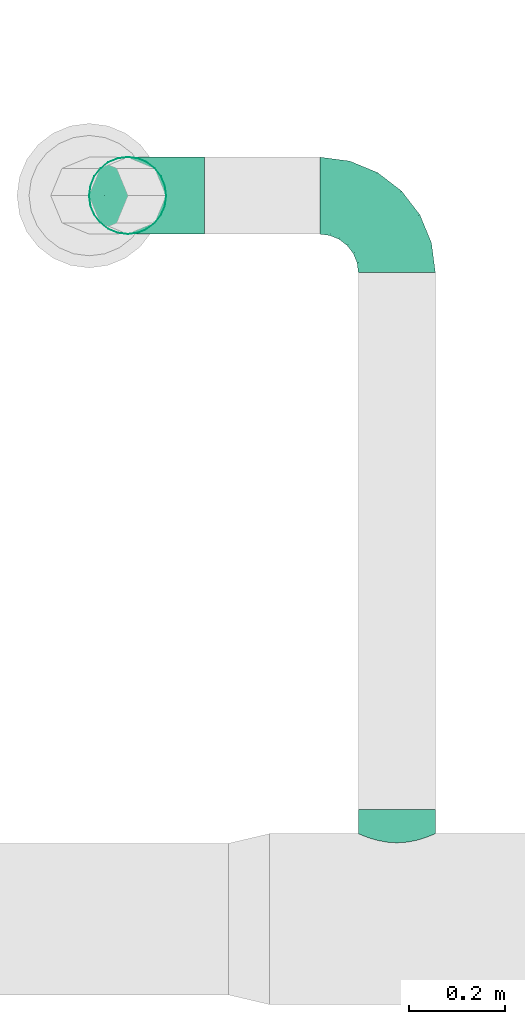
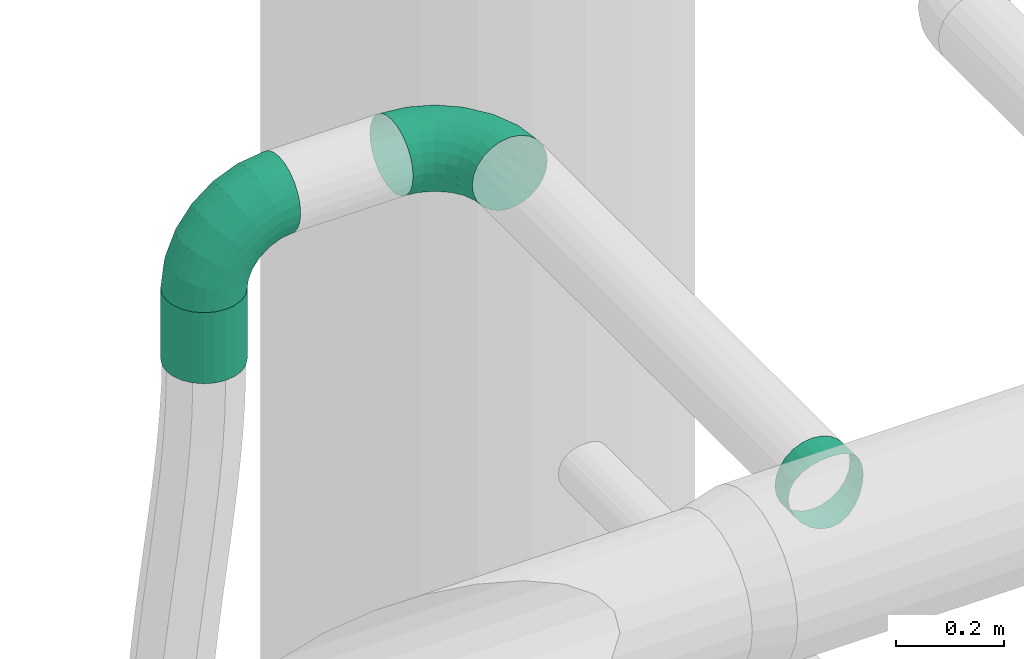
# One storey, part 144 of 374: 2 flow fittings, 2 flow segments.
"""IFC2X3 building model written with IfcOpenShell, lengths in metres."""

import ifcopenshell
import ifcopenshell.guid

model = None  # the IFC model being written
_history = None  # IfcOwnerHistory: only IFC2X3 demands one
_inside = {}  # id of a spatial element -> (the spatial element, [elements in it])
_under = {}  # id of a project, library or spatial element -> (it, [spatial elements below it])
_declared = {}  # id of a project -> (the project, [libraries it declares])
_typed = {}  # id of a type object -> (the type object, [elements of that type])
_made_of = {}  # id of a material, layer set ... -> (it, [elements and type objects made of it])


def new_model(schema):
    """Start an empty IFC model of exactly this schema.

    Asked for "IFC4X3", IfcOpenShell would pick the latest addendum, in which some entities
    have other attributes; the version numbers below select the first issue.
    IFC2X3 requires an IfcOwnerHistory on every rooted entity: one is made here for all.
    """
    global model, _history
    if schema == "IFC4X3":
        model = ifcopenshell.file(schema_version=(4, 3, 0, 0))
    else:
        model = ifcopenshell.file(schema=schema)
    _inside.clear()
    _under.clear()
    _declared.clear()
    _typed.clear()
    _made_of.clear()
    _history = None
    if model.schema == "IFC2X3":
        org = make("IfcOrganization", Name="unknown")
        user = make(
            "IfcPersonAndOrganization",
            ThePerson=make("IfcPerson", FamilyName="unknown"),
            TheOrganization=org,
        )
        app = make(
            "IfcApplication",
            ApplicationDeveloper=org,
            Version="unknown",
            ApplicationFullName="unknown",
            ApplicationIdentifier="unknown",
        )
        _history = make(
            "IfcOwnerHistory",
            OwningUser=user,
            OwningApplication=app,
            ChangeAction="ADDED",
            CreationDate=0,
        )
    return model


def make(cls, **values):
    """One entity of the class cls with the attributes given. An attribute that is None is left unset."""
    return model.create_entity(
        cls, **{name: value for name, value in values.items() if value is not None}
    )


def rooted(cls, **values):
    """An entity with a GlobalId (a new one), such as an element, a storey or a relation."""
    return make(cls, GlobalId=ifcopenshell.guid.new(), OwnerHistory=_history, **values)


def si_unit(unit_type, name, prefix=None):
    """IfcSIUnit, for example si_unit("LENGTHUNIT", "METRE", prefix="MILLI")."""
    return make("IfcSIUnit", UnitType=unit_type, Prefix=prefix, Name=name)


def assignment(units):
    """IfcUnitAssignment: the units of a project."""
    return None if units is None else make("IfcUnitAssignment", Units=units)


def point(xyz):
    """IfcCartesianPoint."""
    return None if xyz is None else make("IfcCartesianPoint", Coordinates=xyz)


def direction(xyz):
    """IfcDirection."""
    return None if xyz is None else make("IfcDirection", DirectionRatios=xyz)


def frame(location, z_axis=None, x_axis=None):
    """IfcAxis2Placement3D, a coordinate frame: its origin and axes. An axis left out is left unset."""
    return make(
        "IfcAxis2Placement3D",
        Location=point(location),
        Axis=direction(z_axis),
        RefDirection=direction(x_axis),
    )


def origin():
    """The frame at (0, 0, 0) with its axes left unset."""
    return frame((0.0, 0.0, 0.0))


def place(relative_to, where):
    """IfcLocalPlacement: puts the frame where relative to a parent placement (None: the world)."""
    return make(
        "IfcLocalPlacement", PlacementRelTo=relative_to, RelativePlacement=where
    )


def context(
    kind, dimensions, precision=None, world=None, true_north=None, identifier=None
):
    """IfcGeometricRepresentationContext, for example the 3D "Model" context."""
    return make(
        "IfcGeometricRepresentationContext",
        ContextIdentifier=identifier,
        ContextType=kind,
        CoordinateSpaceDimension=dimensions,
        Precision=precision,
        WorldCoordinateSystem=world,
        TrueNorth=true_north,
    )


def subcontext(parent, identifier, kind, view, scale=None):
    """IfcGeometricRepresentationSubContext, for example "Body" below "Model"."""
    return make(
        "IfcGeometricRepresentationSubContext",
        ContextIdentifier=identifier,
        ContextType=kind,
        ParentContext=parent,
        TargetScale=scale,
        TargetView=view,
    )


def project(units=None, contexts=None):
    """IfcProject with its units and contexts."""
    return rooted(
        "IfcProject",
        Name="project",
        RepresentationContexts=contexts,
        UnitsInContext=assignment(units),
    )


def spatial(cls, under=None, at=None, **own):
    """A site, building, storey or space (cls), placed at a placement, below another one or the project."""
    s = rooted(cls, ObjectPlacement=at, **own)
    if under is not None:
        _under.setdefault(under.id(), (under, []))[1].append(s)
    return s


def faces_of(points, faces, orient=None, outer=None):
    """IfcFace entities. A face is a list of loops; a loop is a list of indices into points, from 0.

    orient and outer hold one flag for each loop. By default every Orientation is true, the
    first loop of a face is its IfcFaceOuterBound and the others are IfcFaceBound.
    """
    made = []
    for i, loops in enumerate(faces):
        bounds = []
        for j, loop in enumerate(loops):
            is_outer = j == 0 if outer is None else outer[i][j]
            bounds.append(
                make(
                    "IfcFaceOuterBound" if is_outer else "IfcFaceBound",
                    Bound=make("IfcPolyLoop", Polygon=[points[k] for k in loop]),
                    Orientation=True if orient is None else orient[i][j],
                )
            )
        made.append(make("IfcFace", Bounds=bounds))
    return made


def open_shell(faces, orient=None, outer=None):
    """The faces of one IfcOpenShell. surface_model builds it on its shared points."""
    return ("IfcOpenShell", faces, orient, outer)


def surface_model(cls, points, shells):
    """IfcFaceBasedSurfaceModel or IfcShellBasedSurfaceModel (cls): surfaces that need not close."""
    shared = [point(p) for p in points]
    made = [make(c, CfsFaces=faces_of(shared, fs, o, b)) for c, fs, o, b in shells]
    if cls == "IfcFaceBasedSurfaceModel":
        return make(cls, FbsmFaces=made)
    return make(cls, SbsmBoundary=made)


def shape(context_of_items, identifier, shape_type, items):
    """IfcShapeRepresentation: the items that make up one representation, for example the "Body"."""
    return make(
        "IfcShapeRepresentation",
        ContextOfItems=context_of_items,
        RepresentationIdentifier=identifier,
        RepresentationType=shape_type,
        Items=items,
    )


def source(mapping_origin, context_of_items, identifier, shape_type, items):
    """IfcRepresentationMap: a shape defined once, which mapped items show again and again."""
    return make(
        "IfcRepresentationMap",
        MappingOrigin=mapping_origin,
        MappedRepresentation=shape(context_of_items, identifier, shape_type, items),
    )


def transform(
    local_origin,
    x_axis=None,
    y_axis=None,
    z_axis=None,
    scale=None,
    scale2=None,
    scale3=None,
    uniform=True,
):
    """IfcCartesianTransformationOperator3D, or its non-uniform kind. x_axis, y_axis, z_axis: its Axis1, 2, 3."""
    if uniform:
        return make(
            "IfcCartesianTransformationOperator3D",
            Axis1=direction(x_axis),
            Axis2=direction(y_axis),
            LocalOrigin=point(local_origin),
            Scale=scale,
            Axis3=direction(z_axis),
        )
    return make(
        "IfcCartesianTransformationOperator3DnonUniform",
        Axis1=direction(x_axis),
        Axis2=direction(y_axis),
        LocalOrigin=point(local_origin),
        Scale=scale,
        Axis3=direction(z_axis),
        Scale2=scale2,
        Scale3=scale3,
    )


def mapped(mapping_source, mapping_target):
    """IfcMappedItem: shows the shape of a source again, moved by a transform."""
    return make(
        "IfcMappedItem", MappingSource=mapping_source, MappingTarget=mapping_target
    )


def made_of(thing, what):
    """Note that an element or type object is made of a material, layer set ...; save() writes the relation."""
    if what is not None:
        _made_of.setdefault(what.id(), (what, []))[1].append(thing)
    return thing


def element(
    cls,
    number,
    at=None,
    inside=None,
    cuts=None,
    type_object=None,
    material=None,
    context=None,
    identifier="Body",
    shape_type=None,
    held_by="IfcProductDefinitionShape",
    body=None,
    shapes=None,
    **own,
):
    """One element of the class cls, such as IfcWall. Its Tag is "e" and its number.

    at: its placement. inside: the storey or other place that contains it. cuts: it is an
    opening in that element (IfcRelVoidsElement). A single representation is given by context,
    identifier, shape_type and body (its items); several are given by shapes. held_by: the class
    of the entity that holds the representations. save() writes the other relations.
    """
    e = rooted(cls, Tag="e%d" % number, ObjectPlacement=at, **own)
    if body is not None:
        shapes = [shape(context, identifier, shape_type, body)]
    if shapes is not None:
        e.Representation = make(held_by, Representations=shapes)
    if inside is not None:
        _inside.setdefault(inside.id(), (inside, []))[1].append(e)
    if cuts is not None:
        rooted(
            "IfcRelVoidsElement", RelatingBuildingElement=cuts, RelatedOpeningElement=e
        )
    if type_object is not None:
        _typed.setdefault(type_object.id(), (type_object, []))[1].append(e)
    return made_of(e, material)


def aggregate(whole, parts):
    """IfcRelAggregates: a whole, such as a stair, and the parts it consists of."""
    return rooted("IfcRelAggregates", RelatingObject=whole, RelatedObjects=parts)


def save(model, path):
    """Write the relations noted so far, then the file.

    IfcRelAggregates (storeys below a building ...), IfcRelContainedInSpatialStructure (elements
    in a storey), IfcRelDefinesByType, IfcRelAssociatesMaterial and IfcRelDeclares: one each for
    every whole, place, type object, material and project.
    """
    for whole, parts in _under.values():
        aggregate(whole, parts)
    for where, things in _inside.values():
        rooted(
            "IfcRelContainedInSpatialStructure",
            RelatedElements=things,
            RelatingStructure=where,
        )
    for kind, things in _typed.values():
        rooted("IfcRelDefinesByType", RelatedObjects=things, RelatingType=kind)
    for what, things in _made_of.values():
        rooted("IfcRelAssociatesMaterial", RelatedObjects=things, RelatingMaterial=what)
    for by, libraries in _declared.values():
        rooted("IfcRelDeclares", RelatingContext=by, RelatedDefinitions=libraries)
    model.write(path)


model = new_model("IFC2X3")

# Units and contexts
model_context = context("Model", 3, precision=1e-05, world=origin(), true_north=direction((-0.4480736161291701, 0.8939966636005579)))
body_context = subcontext(model_context, "Body", "Model", "MODEL_VIEW")
ifc_project = project(units=[si_unit("LENGTHUNIT", "METRE"), si_unit("AREAUNIT", "SQUARE_METRE"), si_unit("VOLUMEUNIT", "CUBIC_METRE"), si_unit("PLANEANGLEUNIT", "RADIAN"), si_unit("THERMODYNAMICTEMPERATUREUNIT", "KELVIN"), si_unit("MASSUNIT", "GRAM", prefix="KILO"), si_unit("TIMEUNIT", "SECOND")], contexts=[model_context])

# Site, building, storey
site_placement = place(None, origin())
site = spatial("IfcSite", under=ifc_project, at=site_placement, Name="Site 1", CompositionType="ELEMENT")
building_placement = place(site_placement, origin())
building = spatial("IfcBuilding", under=site, at=building_placement, Name="Undefined", CompositionType="ELEMENT")
storey_placement = place(building_placement, origin())
storey = spatial("IfcBuildingStorey", under=building, at=storey_placement, Name="Rez de chauss\x8ee", CompositionType="ELEMENT", Elevation=0.0)

# Flow fittings
shared_shape_1 = source(origin(), body_context, "Body", "SurfaceModel", [
    surface_model("IfcFaceBasedSurfaceModel", [(0.06265257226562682, -8.8817842e-16, 0.0), (0.062296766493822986, 0.02088115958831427, -7.105427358e-15), (0.0003558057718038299, 0.020881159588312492, 7.105427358e-15), (0.0, 0.0, 0.0), (-0.059474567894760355, 0.022956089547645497, -0.015896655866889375), (-0.06051773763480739, 0.002098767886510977, -0.01607928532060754), (-0.11311701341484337, 0.02696454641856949, -0.04660663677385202), (-0.11477645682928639, 0.006153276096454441, -0.04714207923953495), (-0.15691588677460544, 0.0326333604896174, -0.09003710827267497), (-0.15907851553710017, 0.01188721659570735, -0.09107150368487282), (-0.18788636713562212, 0.03957621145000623, -0.14322835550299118), (-0.1904048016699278, 0.01890983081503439, -0.14487384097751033), (-0.2039178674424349, 0.04731995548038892, -0.20255548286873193), (-0.20662048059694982, 0.026742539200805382, -0.20488255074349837), (0.061253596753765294, 0.04103889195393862, -0.0053597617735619), (0.0013989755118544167, 0.04103889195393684, -0.005359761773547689), (-0.05641614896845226, 0.04304393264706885, -0.02072097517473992), (-0.10825177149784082, 0.04691737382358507, -0.050396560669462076), (-0.15057538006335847, 0.05239524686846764, -0.09236417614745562), (-0.18050269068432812, 0.05910424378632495, -0.14376379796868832), (-0.19599420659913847, 0.06658715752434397, -0.20109262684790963), (0.05959415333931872, 0.05909948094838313, -0.01571402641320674), (0.003058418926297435, 0.05909948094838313, -0.01571402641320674), (-0.05155090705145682, 0.06099334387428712, -0.030223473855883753), (-0.10051228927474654, 0.06465200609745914, -0.058253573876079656), (-0.1404890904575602, 0.0698261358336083, -0.09789412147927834), (-0.16875695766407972, 0.0761631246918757, -0.14644367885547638), (-0.18338948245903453, 0.08323111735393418, -0.2005936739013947), (0.057431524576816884, 0.07383212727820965, -0.030357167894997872), (0.005221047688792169, 0.07383212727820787, -0.03035716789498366), (-0.0452104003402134, 0.07558110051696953, -0.04375657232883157), (-0.09042599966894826, 0.07895985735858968, -0.06964223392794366), (-0.12734438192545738, 0.08373814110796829, -0.10625008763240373), (-0.15344962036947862, 0.08959031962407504, -0.15108536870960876), (-0.16696268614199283, 0.0961175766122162, -0.20109262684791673), (0.054913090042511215, 0.0842328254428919, -0.048291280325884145), (0.007739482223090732, 0.08423282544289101, -0.04829128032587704), (-0.037826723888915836, 0.08581307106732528, -0.06039801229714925), (-0.07868026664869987, 0.08886587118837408, -0.08378642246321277), (-0.11203704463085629, 0.09318318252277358, -0.11686262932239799), (-0.13562384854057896, 0.09847078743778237, -0.1573725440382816), (-0.14783327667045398, 0.10436834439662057, -0.20255548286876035), (0.05221047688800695, 0.0895927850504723, -0.06829418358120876), (0.010442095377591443, 0.08959278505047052, -0.06829418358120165), (-0.029903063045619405, 0.09099196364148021, -0.07901370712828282), (-0.06607554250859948, 0.09369496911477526, -0.0997222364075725), (-0.0956102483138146, 0.0975175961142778, -0.12900851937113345), (-0.11649443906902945, 0.10219933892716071, -0.16487674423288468), (-0.12730489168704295, 0.1074211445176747, -0.2048825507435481), (0.04950786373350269, 0.08954673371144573, -0.08900271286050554), (0.013144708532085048, 0.08954673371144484, -0.08900271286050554), (-0.02197940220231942, 0.09076484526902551, -0.09833502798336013), (-0.05347081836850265, 0.09311805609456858, -0.11636367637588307), (-0.0791834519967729, 0.09644599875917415, -0.14186003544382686), (-0.09736502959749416, 0.10052187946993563, -0.17308657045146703), (-0.10677650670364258, 0.1050679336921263, -0.20791524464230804), (0.04698942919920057, 0.08409780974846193, -0.10900561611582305), (0.015663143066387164, 0.08409780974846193, -0.10900561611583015), (-0.014595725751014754, 0.08514719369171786, -0.11704525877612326), (-0.0417250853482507, 0.0871744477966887, -0.13257665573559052), (-0.06387611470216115, 0.09004141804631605, -0.15454136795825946), (-0.07953925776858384, 0.09355272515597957, -0.1814425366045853), (-0.08764709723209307, 0.09746907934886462, -0.21144689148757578), (0.04482680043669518, 0.0736173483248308, -0.12693972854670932), (0.017825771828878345, 0.0736173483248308, -0.12693972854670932), (-0.008255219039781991, 0.07452184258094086, -0.13386932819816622), (-0.03163879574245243, 0.0762691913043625, -0.14725628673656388), (-0.050731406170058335, 0.07874031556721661, -0.1661883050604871), (-0.06423192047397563, 0.08176681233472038, -0.18937519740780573), (-0.07122030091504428, 0.08514243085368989, -0.21523681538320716), (0.04316735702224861, 0.058819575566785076, -0.14158287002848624), (0.019485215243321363, 0.058819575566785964, -0.14158287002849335), (-0.0033899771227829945, 0.05961289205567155, -0.14766070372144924), (-0.02389931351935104, 0.06114546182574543, -0.15940217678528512), (-0.04064511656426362, 0.06331284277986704, -0.17600712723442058), (-0.052486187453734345, 0.06596733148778, -0.19634395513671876), (-0.05861557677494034, 0.06892802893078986, -0.2190267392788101), (0.04212418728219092, 0.040712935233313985, -0.15193713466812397), (0.020528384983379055, 0.040712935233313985, -0.15193713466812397), (-0.0003315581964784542, 0.041436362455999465, -0.15747952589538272), (-0.019034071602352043, 0.04283391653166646, -0.16818660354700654), (-0.03430460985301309, 0.04481035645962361, -0.1833286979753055), (-0.04510251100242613, 0.047230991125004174, -0.20187390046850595), (-0.05069191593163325, 0.04993085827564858, -0.22255838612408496), (0.04176838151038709, 0.02053136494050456, -0.15729689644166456), (0.020884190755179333, 0.02053136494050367, -0.15729689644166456), (0.0007116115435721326, 0.021230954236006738, -0.16265665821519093), (-0.017374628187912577, 0.022582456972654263, -0.17301092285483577), (-0.03214198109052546, 0.024493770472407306, -0.1876540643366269), (-0.042584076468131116, 0.026834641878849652, -0.20558817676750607), (-0.04798930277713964, 0.02944554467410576, -0.22559108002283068), (0.04212418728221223, -0.000349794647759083, -0.15729689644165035), (0.020528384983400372, -0.000349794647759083, -0.15729689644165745), (-0.0003315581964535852, 0.00037363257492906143, -0.1628392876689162), (-0.019034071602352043, 0.0017711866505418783, -0.17354636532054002), (-0.03430460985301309, 0.0037476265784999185, -0.18868845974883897), (-0.04510251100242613, 0.00616826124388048, -0.20723366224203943), (-0.05069191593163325, 0.008868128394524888, -0.22791814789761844), (0.04316735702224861, -0.020507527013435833, -0.15193713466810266), (0.019485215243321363, -0.020507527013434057, -0.15193713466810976), (-0.0033899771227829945, -0.019714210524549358, -0.15801496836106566), (-0.02389931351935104, -0.01818164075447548, -0.16975644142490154), (-0.04064511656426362, -0.01601425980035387, -0.186361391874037), (-0.052486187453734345, -0.013359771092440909, -0.20669821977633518), (-0.05861557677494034, -0.010399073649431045, -0.22938100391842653), (0.04482680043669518, -0.03856811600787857, -0.1415828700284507), (0.017825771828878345, -0.03856811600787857, -0.1415828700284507), (-0.008255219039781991, -0.03766362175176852, -0.1485124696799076), (-0.03163879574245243, -0.03591627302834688, -0.16189942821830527), (-0.050731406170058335, -0.03344514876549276, -0.1808314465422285), (-0.06423192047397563, -0.030418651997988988, -0.20401833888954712), (-0.07122030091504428, -0.027043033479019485, -0.22987995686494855), (0.04698942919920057, -0.05330076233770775, -0.12693972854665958), (0.015663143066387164, -0.05330076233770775, -0.12693972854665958), (-0.014595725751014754, -0.05225137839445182, -0.1349793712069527), (-0.0417250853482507, -0.05022412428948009, -0.15051076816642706), (-0.06387611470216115, -0.047357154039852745, -0.172475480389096), (-0.07953925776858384, -0.043845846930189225, -0.19937664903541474), (-0.08764709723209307, -0.03992949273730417, -0.2293810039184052), (0.04950786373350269, -0.06370146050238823, -0.10900561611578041), (0.013144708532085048, -0.06370146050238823, -0.10900561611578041), (-0.02197940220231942, -0.06248334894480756, -0.11833793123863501), (-0.05347081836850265, -0.06013013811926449, -0.13636657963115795), (-0.0791834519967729, -0.05680219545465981, -0.16186293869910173), (-0.09736502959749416, -0.05272631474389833, -0.1930894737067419), (-0.10677650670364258, -0.04818026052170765, -0.2279181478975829), (0.05221047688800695, -0.06906142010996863, -0.08900271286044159), (0.010442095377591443, -0.06906142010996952, -0.08900271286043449), (-0.029903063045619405, -0.06766224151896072, -0.09972223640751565), (-0.06607554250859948, -0.06495923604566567, -0.12043076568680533), (-0.0956102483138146, -0.06113660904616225, -0.14971704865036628), (-0.11649443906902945, -0.05645486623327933, -0.1855852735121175), (-0.12730489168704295, -0.05123306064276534, -0.22559108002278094), (0.054913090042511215, -0.06901536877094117, -0.06829418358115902), (0.007739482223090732, -0.06901536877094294, -0.06829418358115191), (-0.037826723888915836, -0.06743512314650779, -0.08040091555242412), (-0.07868026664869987, -0.06438232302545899, -0.10378932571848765), (-0.11203704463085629, -0.06006501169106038, -0.13686553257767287), (-0.13562384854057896, -0.0547774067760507, -0.17737544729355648), (-0.14783327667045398, -0.04887984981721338, -0.22255838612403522), (0.057431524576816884, -0.06356644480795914, -0.0482912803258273), (0.005221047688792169, -0.06356644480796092, -0.04829128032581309), (-0.0452104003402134, -0.061817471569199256, -0.0616906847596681), (-0.09042599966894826, -0.05843871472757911, -0.0875763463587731), (-0.12734438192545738, -0.05366043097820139, -0.12418420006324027), (-0.15344962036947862, -0.04780825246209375, -0.1690194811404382), (-0.16696268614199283, -0.041280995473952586, -0.21902673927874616), (0.05959415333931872, -0.05308598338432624, -0.030357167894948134), (0.003058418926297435, -0.05308598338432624, -0.030357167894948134), (-0.05155090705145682, -0.05119212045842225, -0.04486661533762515), (-0.10051228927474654, -0.04753345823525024, -0.07289671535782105), (-0.1404890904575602, -0.04235932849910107, -0.11253726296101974), (-0.16875695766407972, -0.03602233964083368, -0.16108682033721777), (-0.18338948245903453, -0.02895434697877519, -0.2152368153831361), (0.061253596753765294, -0.03828821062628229, -0.015714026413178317), (0.0013989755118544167, -0.03828821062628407, -0.015714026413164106), (-0.05641614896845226, -0.03628316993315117, -0.031075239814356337), (-0.10825177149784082, -0.03240972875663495, -0.06075082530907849), (-0.15057538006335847, -0.026931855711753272, -0.10271844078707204), (-0.18050269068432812, -0.02022285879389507, -0.15411806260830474), (-0.19599420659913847, -0.012739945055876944, -0.21144689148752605), (0.062296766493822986, -0.020181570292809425, -0.005359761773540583), (0.0003558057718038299, -0.020181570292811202, -0.0053597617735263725), (-0.059474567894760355, -0.018106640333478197, -0.021256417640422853), (-0.11311701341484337, -0.014098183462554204, -0.051966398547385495), (-0.15691588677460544, -0.00842936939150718, -0.09539687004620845), (-0.18788636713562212, -0.0014865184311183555, -0.14858811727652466), (-0.2039178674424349, 0.006257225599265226, -0.2079152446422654)], [open_shell([[[0, 1, 2, 3]], [[3, 2, 4, 5]], [[5, 4, 6, 7]], [[7, 6, 8, 9]], [[9, 8, 10, 11]], [[11, 10, 12, 13]], [[1, 14, 15, 2]], [[2, 15, 16, 4]], [[4, 16, 17, 6]], [[6, 17, 18, 8]], [[8, 18, 19, 10]], [[10, 19, 20, 12]], [[14, 21, 22, 15]], [[15, 22, 23, 16]], [[16, 23, 24, 17]], [[17, 24, 25, 18]], [[18, 25, 26, 19]], [[19, 26, 27, 20]], [[21, 28, 29, 22]], [[22, 29, 30, 23]], [[23, 30, 31, 24]], [[24, 31, 32, 25]], [[25, 32, 33, 26]], [[26, 33, 34, 27]], [[28, 35, 36, 29]], [[29, 36, 37, 30]], [[30, 37, 38, 31]], [[31, 38, 39, 32]], [[32, 39, 40, 33]], [[33, 40, 41, 34]], [[35, 42, 43, 36]], [[36, 43, 44, 37]], [[37, 44, 45, 38]], [[38, 45, 46, 39]], [[39, 46, 47, 40]], [[40, 47, 48, 41]], [[42, 49, 50, 43]], [[43, 50, 51, 44]], [[44, 51, 52, 45]], [[45, 52, 53, 46]], [[46, 53, 54, 47]], [[47, 54, 55, 48]], [[49, 56, 57, 50]], [[50, 57, 58, 51]], [[51, 58, 59, 52]], [[52, 59, 60, 53]], [[53, 60, 61, 54]], [[54, 61, 62, 55]], [[56, 63, 64, 57]], [[57, 64, 65, 58]], [[58, 65, 66, 59]], [[59, 66, 67, 60]], [[60, 67, 68, 61]], [[61, 68, 69, 62]], [[63, 70, 71, 64]], [[64, 71, 72, 65]], [[65, 72, 73, 66]], [[66, 73, 74, 67]], [[67, 74, 75, 68]], [[68, 75, 76, 69]], [[70, 77, 78, 71]], [[71, 78, 79, 72]], [[72, 79, 80, 73]], [[73, 80, 81, 74]], [[74, 81, 82, 75]], [[75, 82, 83, 76]], [[77, 84, 85, 78]], [[78, 85, 86, 79]], [[79, 86, 87, 80]], [[80, 87, 88, 81]], [[81, 88, 89, 82]], [[82, 89, 90, 83]], [[84, 91, 92, 85]], [[85, 92, 93, 86]], [[86, 93, 94, 87]], [[87, 94, 95, 88]], [[88, 95, 96, 89]], [[89, 96, 97, 90]], [[91, 98, 99, 92]], [[92, 99, 100, 93]], [[93, 100, 101, 94]], [[94, 101, 102, 95]], [[95, 102, 103, 96]], [[96, 103, 104, 97]], [[98, 105, 106, 99]], [[99, 106, 107, 100]], [[100, 107, 108, 101]], [[101, 108, 109, 102]], [[102, 109, 110, 103]], [[103, 110, 111, 104]], [[105, 112, 113, 106]], [[106, 113, 114, 107]], [[107, 114, 115, 108]], [[108, 115, 116, 109]], [[109, 116, 117, 110]], [[110, 117, 118, 111]], [[112, 119, 120, 113]], [[113, 120, 121, 114]], [[114, 121, 122, 115]], [[115, 122, 123, 116]], [[116, 123, 124, 117]], [[117, 124, 125, 118]], [[119, 126, 127, 120]], [[120, 127, 128, 121]], [[121, 128, 129, 122]], [[122, 129, 130, 123]], [[123, 130, 131, 124]], [[124, 131, 132, 125]], [[126, 133, 134, 127]], [[127, 134, 135, 128]], [[128, 135, 136, 129]], [[129, 136, 137, 130]], [[130, 137, 138, 131]], [[131, 138, 139, 132]], [[133, 140, 141, 134]], [[134, 141, 142, 135]], [[135, 142, 143, 136]], [[136, 143, 144, 137]], [[137, 144, 145, 138]], [[138, 145, 146, 139]], [[140, 147, 148, 141]], [[141, 148, 149, 142]], [[142, 149, 150, 143]], [[143, 150, 151, 144]], [[144, 151, 152, 145]], [[145, 152, 153, 146]], [[147, 154, 155, 148]], [[148, 155, 156, 149]], [[149, 156, 157, 150]], [[150, 157, 158, 151]], [[151, 158, 159, 152]], [[152, 159, 160, 153]], [[154, 161, 162, 155]], [[155, 162, 163, 156]], [[156, 163, 164, 157]], [[157, 164, 165, 158]], [[158, 165, 166, 159]], [[159, 166, 167, 160]], [[161, 0, 3, 162]], [[162, 3, 5, 163]], [[163, 5, 7, 164]], [[164, 7, 9, 165]], [[165, 9, 11, 166]], [[166, 11, 13, 167]]])]),
])
flow_fitting_1_placement = place(storey_placement, origin())
element("IfcFlowFitting", 1, at=flow_fitting_1_placement, inside=storey, Name="Coude", ObjectType="Coude", context=body_context, shape_type="MappedRepresentation", body=[
    mapped(shared_shape_1, transform((31.8067284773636, 21.932112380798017, 3.8000000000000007), x_axis=(0.13052619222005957, -0.9914448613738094, 0.0), y_axis=(-0.12832103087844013, -0.016893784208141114, -0.9915887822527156), z_axis=(0.983105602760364, 0.12942830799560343, -0.1294283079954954))),
])
flow_fitting_2_placement = place(storey_placement, origin())
element("IfcFlowFitting", 2, at=flow_fitting_2_placement, inside=storey, Name="Coude", ObjectType="Coude", context=body_context, shape_type="MappedRepresentation", body=[
    mapped(shared_shape_1, transform((31.103915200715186, 22.029995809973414, 3.7021165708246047), x_axis=(-0.13052619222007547, 0.0, -0.9914448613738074), y_axis=(0.12832103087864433, -0.9915887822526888, -0.016893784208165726), z_axis=(-0.9831056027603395, -0.12942830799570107, 0.1294283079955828))),
])

# Flow segments
shared_shape_2 = source(origin(), body_context, "Body", "SurfaceModel", [
    surface_model("IfcFaceBasedSurfaceModel", [(0.0, 0.020884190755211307, 0.0), (0.0, 0.0, 0.0), (0.16000000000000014, 0.0, -4.4408921e-16), (0.16000000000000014, 0.0208841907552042, -4.4408921e-16), (0.0, -0.020172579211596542, -0.005405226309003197), (0.16000000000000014, -0.020172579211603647, -0.005405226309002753), (0.0, -0.03825881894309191, -0.015847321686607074), (0.16000000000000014, -0.03825881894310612, -0.015847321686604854), (0.0, -0.05302617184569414, -0.0306146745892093), (0.16000000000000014, -0.05302617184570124, -0.03061467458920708), (0.0, -0.06346826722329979, -0.04870091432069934), (0.16000000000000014, -0.0634682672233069, -0.04870091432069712), (0.0, -0.06887349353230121, -0.06887349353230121), (0.16000000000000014, -0.06887349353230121, -0.06887349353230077), (0.0, -0.06887349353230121, -0.08975768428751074), (0.16000000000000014, -0.06887349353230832, -0.08975768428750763), (0.0, -0.06346826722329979, -0.10993026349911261), (0.16000000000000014, -0.0634682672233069, -0.10993026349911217), (0.0, -0.05302617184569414, -0.12801650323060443), (0.16000000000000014, -0.05302617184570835, -0.1280165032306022), (0.0, -0.038258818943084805, -0.14278385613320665), (0.16000000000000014, -0.03825881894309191, -0.14278385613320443), (0.0, -0.020172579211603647, -0.15322595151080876), (0.16000000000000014, -0.020172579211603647, -0.1532259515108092), (0.0, 7.105427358e-15, -0.15863117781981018), (0.16000000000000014, -7.105427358e-15, -0.15863117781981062), (0.0, 0.020884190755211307, -0.15863117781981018), (0.16000000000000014, 0.0208841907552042, -0.15863117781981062), (0.0, 0.04105676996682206, -0.15322595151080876), (0.16000000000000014, 0.04105676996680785, -0.1532259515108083), (0.0, 0.05914300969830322, -0.1427838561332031), (0.16000000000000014, 0.05914300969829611, -0.14278385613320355), (0.0, 0.07391036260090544, -0.12801650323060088), (0.16000000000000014, 0.07391036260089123, -0.1280165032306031), (0.0, 0.0843524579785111, -0.10993026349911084), (0.16000000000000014, 0.08435245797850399, -0.10993026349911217), (0.0, 0.08975768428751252, -0.08975768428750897), (0.16000000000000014, 0.08975768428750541, -0.08975768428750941), (0.0, 0.08975768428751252, -0.06887349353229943), (0.16000000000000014, 0.08975768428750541, -0.06887349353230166), (0.0, 0.0843524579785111, -0.048700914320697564), (0.16000000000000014, 0.08435245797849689, -0.04870091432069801), (0.0, 0.07391036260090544, -0.030614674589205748), (0.16000000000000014, 0.07391036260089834, -0.03061467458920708), (0.0, 0.05914300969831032, -0.015847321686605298), (0.16000000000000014, 0.05914300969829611, -0.01584732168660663), (0.0, 0.04105676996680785, -0.005405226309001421), (0.16000000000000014, 0.04105676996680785, -0.005405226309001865)], [open_shell([[[0, 1, 2, 3]], [[1, 4, 5, 2]], [[4, 6, 7, 5]], [[6, 8, 9, 7]], [[8, 10, 11, 9]], [[10, 12, 13, 11]], [[12, 14, 15, 13]], [[14, 16, 17, 15]], [[16, 18, 19, 17]], [[18, 20, 21, 19]], [[20, 22, 23, 21]], [[22, 24, 25, 23]], [[24, 26, 27, 25]], [[26, 28, 29, 27]], [[28, 30, 31, 29]], [[30, 32, 33, 31]], [[32, 34, 35, 33]], [[34, 36, 37, 35]], [[36, 38, 39, 37]], [[38, 40, 41, 39]], [[40, 42, 43, 41]], [[42, 44, 45, 43]], [[44, 46, 47, 45]], [[46, 0, 3, 47]]])]),
])
flow_segment_1_placement = place(storey_placement, origin())
element("IfcFlowSegment", 3, at=flow_segment_1_placement, inside=storey, Name="Tube", ObjectType="Tube", context=body_context, shape_type="MappedRepresentation", body=[
    mapped(shared_shape_2, transform((31.253011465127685, 22.050701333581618, 3.4800000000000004), x_axis=(0.0, 0.0, 1.0), y_axis=(0.13052619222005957, -0.9914448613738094, 0.0), z_axis=(0.9914448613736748, 0.13052619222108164, 0.0))),
])
shared_shape_3 = source(origin(), body_context, "Body", "SurfaceModel", [
    surface_model("IfcFaceBasedSurfaceModel", [(0.0012117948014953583, 0.0208841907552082, 0.0), (0.0, 0.0, 0.0), (0.05121179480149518, 4.4408921e-16, 7.105427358e-15), (0.05121179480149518, 0.0208841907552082, 0.0), (-0.0033539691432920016, -0.02017257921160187, -0.005405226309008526), (0.05121179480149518, -0.02017257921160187, -0.005405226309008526), (-0.008043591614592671, -0.03825881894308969, -0.01584732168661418), (0.05121179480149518, -0.03825881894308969, -0.01584732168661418), (-0.012867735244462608, -0.05302617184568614, -0.03061467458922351), (0.05121179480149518, -0.05302617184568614, -0.03061467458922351), (-0.01649155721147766, -0.06346826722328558, -0.04870091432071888), (0.05121179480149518, -0.06346826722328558, -0.04870091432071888), (-0.017838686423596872, -0.06887349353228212, -0.06887349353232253), (0.05121179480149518, -0.06887349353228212, -0.06887349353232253), (-0.01649155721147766, -0.06887349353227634, -0.08975768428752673), (0.05121179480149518, -0.06887349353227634, -0.08975768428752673), (-0.012867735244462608, -0.06346826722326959, -0.10993026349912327), (0.05121179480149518, -0.06346826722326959, -0.10993026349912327), (-0.008043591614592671, -0.05302617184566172, -0.12801650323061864), (0.05121179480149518, -0.05302617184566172, -0.12801650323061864), (-0.0033539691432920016, -0.03825881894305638, -0.14278385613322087), (0.05121179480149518, -0.03825881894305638, -0.14278385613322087), (0.0, -0.020172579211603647, -0.15322595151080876), (0.05121179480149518, -0.020172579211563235, -0.1532259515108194), (0.0012117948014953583, 4.2188474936e-14, -0.15863117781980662), (0.05121179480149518, 4.2188474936e-14, -0.15863117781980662), (0.0, 0.020884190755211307, -0.15863117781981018), (0.05121179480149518, 0.020884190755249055, -0.15863117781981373), (-0.0033539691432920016, 0.04105676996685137, -0.1532259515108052), (0.05121179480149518, 0.04105676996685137, -0.1532259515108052), (-0.008043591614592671, 0.059143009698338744, -0.14278385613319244), (0.05121179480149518, 0.059143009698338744, -0.14278385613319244), (-0.012867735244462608, 0.07391036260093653, -0.128016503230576), (0.05121179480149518, 0.07391036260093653, -0.128016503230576), (-0.01649155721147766, 0.08435245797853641, -0.10993026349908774), (0.05121179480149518, 0.08435245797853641, -0.10993026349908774), (-0.017838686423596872, 0.0897576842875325, -0.0897576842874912), (0.05121179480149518, 0.0897576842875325, -0.0897576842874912), (-0.01649155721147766, 0.08975768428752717, -0.0688734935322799), (0.05121179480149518, 0.08975768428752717, -0.0688734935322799), (-0.012867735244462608, 0.08435245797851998, -0.04870091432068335), (0.05121179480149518, 0.08435245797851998, -0.04870091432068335), (-0.008043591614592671, 0.07391036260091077, -0.030614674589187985), (0.05121179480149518, 0.07391036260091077, -0.030614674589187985), (-0.0033539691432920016, 0.05914300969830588, -0.015847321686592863), (0.05121179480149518, 0.05914300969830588, -0.015847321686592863), (0.0, 0.04105676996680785, -0.005405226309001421), (0.05121179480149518, 0.04105676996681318, -0.00540522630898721)], [open_shell([[[0, 1, 2, 3]], [[1, 4, 5, 2]], [[4, 6, 7, 5]], [[6, 8, 9, 7]], [[8, 10, 11, 9]], [[10, 12, 13, 11]], [[12, 14, 15, 13]], [[14, 16, 17, 15]], [[16, 18, 19, 17]], [[18, 20, 21, 19]], [[20, 22, 23, 21]], [[22, 24, 25, 23]], [[24, 26, 27, 25]], [[26, 28, 29, 27]], [[28, 30, 31, 29]], [[30, 32, 33, 31]], [[32, 34, 35, 33]], [[34, 36, 37, 35]], [[36, 38, 39, 37]], [[38, 40, 41, 39]], [[40, 42, 43, 41]], [[42, 44, 45, 43]], [[44, 46, 47, 45]], [[46, 0, 3, 47]]])]),
])
flow_segment_2_placement = place(storey_placement, origin())
element("IfcFlowSegment", 4, at=flow_segment_2_placement, inside=storey, Name="Piquage équerre circulaire", ObjectType="Piquage équerre circulaire", context=body_context, shape_type="MappedRepresentation", body=[
    mapped(shared_shape_3, transform((31.812180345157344, 20.70317638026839, 3.7792944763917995), x_axis=(0.0, 1.0, 0.0), y_axis=(0.1305261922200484, 0.0, 0.9914448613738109), z_axis=(0.9914448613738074, 0.0, -0.13052619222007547))),
])

save(model, "model.ifc")
